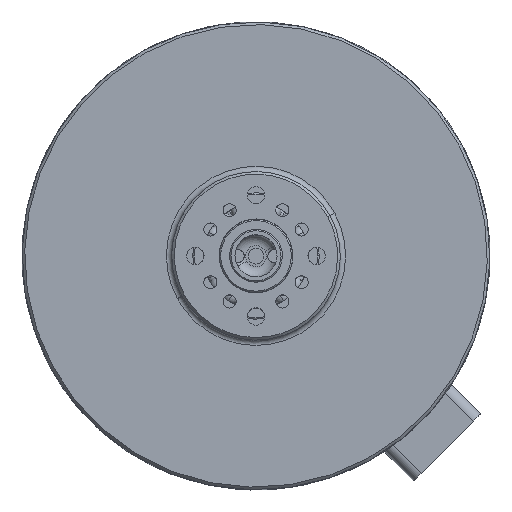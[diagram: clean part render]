
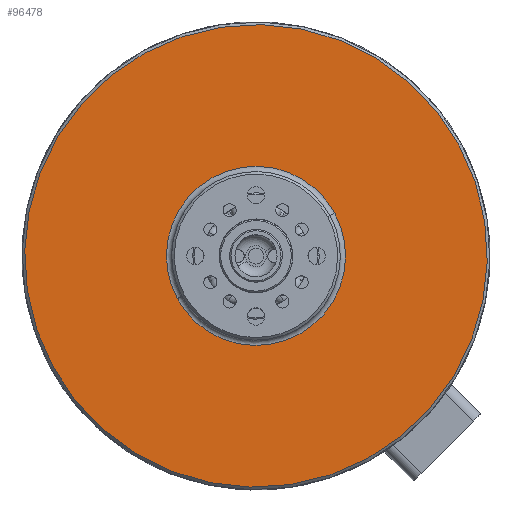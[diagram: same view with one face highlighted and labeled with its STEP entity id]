
A CAD part, top view. The second image highlights one B-rep face of the part: STEP entity #96478.
In plain terms, the highlighted planar face has unit normal (0, 0, 1).
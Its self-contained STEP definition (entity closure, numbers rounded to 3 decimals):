
#1349 = AXIS2_PLACEMENT_3D ( 'NONE', #96611, #85712, #33253 ) ;
#1606 = AXIS2_PLACEMENT_3D ( 'NONE', #81393, #122951, #29607 ) ;
#9440 = FACE_OUTER_BOUND ( 'NONE', #25013, .T. ) ;
#10795 = DIRECTION ( 'NONE',  ( 1., 0., 0. ) ) ;
#13254 = EDGE_CURVE ( 'NONE', #71045, #53313, #84242, .T. ) ;
#14316 = DIRECTION ( 'NONE',  ( 1., 0., 0. ) ) ;
#14811 = ORIENTED_EDGE ( 'NONE', *, *, #125986, .F. ) ;
#15126 = CARTESIAN_POINT ( 'NONE',  ( -14.919, -8.15, 8.25 ) ) ;
#21006 = FACE_BOUND ( 'NONE', #72773, .T. ) ;
#21832 = VERTEX_POINT ( 'NONE', #51018 ) ;
#25013 = EDGE_LOOP ( 'NONE', ( #90269, #30710 ) ) ;
#27140 = ORIENTED_EDGE ( 'NONE', *, *, #93917, .F. ) ;
#29607 = DIRECTION ( 'NONE',  ( 1., 0., 0. ) ) ;
#30710 = ORIENTED_EDGE ( 'NONE', *, *, #13254, .T. ) ;
#31555 = CIRCLE ( 'NONE', #88167, 43.9 ) ;
#32734 = DIRECTION ( 'NONE',  ( 0., 0., 1. ) ) ;
#33253 = DIRECTION ( 'NONE',  ( 1., 0., 0. ) ) ;
#42803 = DIRECTION ( 'NONE',  ( 0., 0., 1. ) ) ;
#47665 = EDGE_CURVE ( 'NONE', #53313, #71045, #31555, .T. ) ;
#51006 = PLANE ( 'NONE',  #112168 ) ;
#51018 = CARTESIAN_POINT ( 'NONE',  ( 14.919, 8.15, 8.25 ) ) ;
#53211 = CARTESIAN_POINT ( 'NONE',  ( 0., 0., 8.25 ) ) ;
#53313 = VERTEX_POINT ( 'NONE', #112115 ) ;
#53577 = AXIS2_PLACEMENT_3D ( 'NONE', #93063, #61774, #133940 ) ;
#53866 = CIRCLE ( 'NONE', #1349, 17. ) ;
#61774 = DIRECTION ( 'NONE',  ( 0., 0., 1. ) ) ;
#62594 = CARTESIAN_POINT ( 'NONE',  ( -17., 0., 8.25 ) ) ;
#67643 = CARTESIAN_POINT ( 'NONE',  ( -38.526, -21.047, 8.25 ) ) ;
#71045 = VERTEX_POINT ( 'NONE', #67643 ) ;
#72773 = EDGE_LOOP ( 'NONE', ( #27140, #14811 ) ) ;
#80011 = VERTEX_POINT ( 'NONE', #15126 ) ;
#81393 = CARTESIAN_POINT ( 'NONE',  ( 0., 0., 8.25 ) ) ;
#84242 = CIRCLE ( 'NONE', #1606, 43.9 ) ;
#85712 = DIRECTION ( 'NONE',  ( 0., 0., 1. ) ) ;
#88167 = AXIS2_PLACEMENT_3D ( 'NONE', #53211, #32734, #14316 ) ;
#90269 = ORIENTED_EDGE ( 'NONE', *, *, #47665, .T. ) ;
#93063 = CARTESIAN_POINT ( 'NONE',  ( 0., 0., 8.25 ) ) ;
#93917 = EDGE_CURVE ( 'NONE', #80011, #21832, #129693, .T. ) ;
#96478 = ADVANCED_FACE ( 'NONE', ( #21006, #9440 ), #51006, .T. ) ;
#96611 = CARTESIAN_POINT ( 'NONE',  ( 0., 0., 8.25 ) ) ;
#112115 = CARTESIAN_POINT ( 'NONE',  ( 38.526, 21.047, 8.25 ) ) ;
#112168 = AXIS2_PLACEMENT_3D ( 'NONE', #62594, #42803, #10795 ) ;
#122951 = DIRECTION ( 'NONE',  ( 0., 0., 1. ) ) ;
#125986 = EDGE_CURVE ( 'NONE', #21832, #80011, #53866, .T. ) ;
#129693 = CIRCLE ( 'NONE', #53577, 17. ) ;
#133940 = DIRECTION ( 'NONE',  ( 1., 0., 0. ) ) ;
